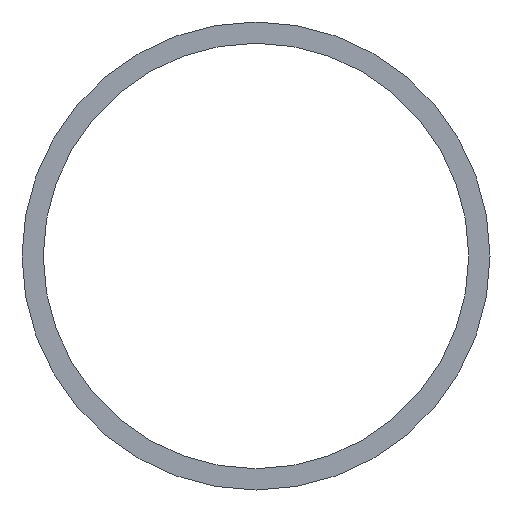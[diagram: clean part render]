
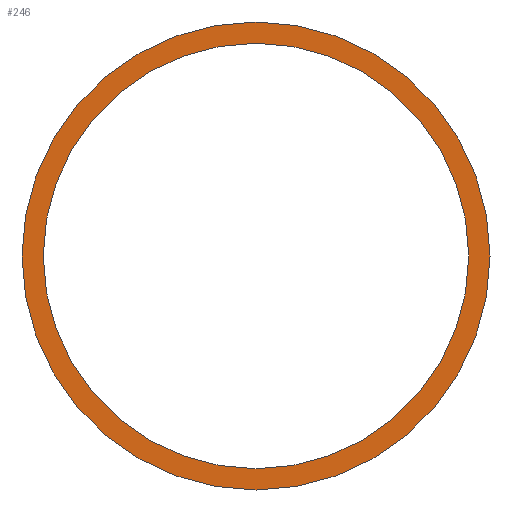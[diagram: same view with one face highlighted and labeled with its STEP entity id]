
A CAD part, front view. The second image highlights one B-rep face of the part: STEP entity #246.
In plain terms, the highlighted planar face has unit normal (0, -1, 0).
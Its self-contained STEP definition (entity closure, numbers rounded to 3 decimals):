
#17 = EDGE_LOOP ( 'NONE', ( #343, #183 ) ) ;
#29 = AXIS2_PLACEMENT_3D ( 'NONE', #523, #140, #232 ) ;
#48 = EDGE_CURVE ( 'NONE', #255, #549, #237, .T. ) ;
#135 = VERTEX_POINT ( 'NONE', #241 ) ;
#140 = DIRECTION ( 'NONE',  ( 0., -1., 0. ) ) ;
#175 = CIRCLE ( 'NONE', #29, 250. ) ;
#176 = DIRECTION ( 'NONE',  ( 0., 1., 0. ) ) ;
#183 = ORIENTED_EDGE ( 'NONE', *, *, #408, .F. ) ;
#188 = EDGE_CURVE ( 'NONE', #890, #135, #1183, .T. ) ;
#189 = FACE_BOUND ( 'NONE', #17, .T. ) ;
#199 = CIRCLE ( 'NONE', #333, 275. ) ;
#232 = DIRECTION ( 'NONE',  ( 0., 0., -1. ) ) ;
#237 = CIRCLE ( 'NONE', #347, 275. ) ;
#241 = CARTESIAN_POINT ( 'NONE',  ( 0., 0., 250. ) ) ;
#246 = ADVANCED_FACE ( 'NONE', ( #189, #558 ), #918, .F. ) ;
#255 = VERTEX_POINT ( 'NONE', #360 ) ;
#271 = AXIS2_PLACEMENT_3D ( 'NONE', #379, #1116, #908 ) ;
#333 = AXIS2_PLACEMENT_3D ( 'NONE', #625, #997, #1077 ) ;
#343 = ORIENTED_EDGE ( 'NONE', *, *, #188, .F. ) ;
#347 = AXIS2_PLACEMENT_3D ( 'NONE', #682, #1056, #1172 ) ;
#360 = CARTESIAN_POINT ( 'NONE',  ( 0., 0., 275. ) ) ;
#374 = CARTESIAN_POINT ( 'NONE',  ( 0., 0., 275. ) ) ;
#379 = CARTESIAN_POINT ( 'NONE',  ( 0., 0., 0. ) ) ;
#399 = EDGE_LOOP ( 'NONE', ( #755, #927 ) ) ;
#408 = EDGE_CURVE ( 'NONE', #135, #890, #175, .T. ) ;
#523 = CARTESIAN_POINT ( 'NONE',  ( 0., 0., 0. ) ) ;
#549 = VERTEX_POINT ( 'NONE', #550 ) ;
#550 = CARTESIAN_POINT ( 'NONE',  ( 0., 0., -275. ) ) ;
#558 = FACE_OUTER_BOUND ( 'NONE', #399, .T. ) ;
#625 = CARTESIAN_POINT ( 'NONE',  ( 0., 0., 0. ) ) ;
#654 = CARTESIAN_POINT ( 'NONE',  ( 0., 0., -250. ) ) ;
#682 = CARTESIAN_POINT ( 'NONE',  ( 0., 0., 0. ) ) ;
#755 = ORIENTED_EDGE ( 'NONE', *, *, #1121, .T. ) ;
#890 = VERTEX_POINT ( 'NONE', #654 ) ;
#908 = DIRECTION ( 'NONE',  ( 0., 0., -1. ) ) ;
#918 = PLANE ( 'NONE',  #1101 ) ;
#927 = ORIENTED_EDGE ( 'NONE', *, *, #48, .T. ) ;
#997 = DIRECTION ( 'NONE',  ( 0., -1., 0. ) ) ;
#1056 = DIRECTION ( 'NONE',  ( 0., -1., 0. ) ) ;
#1077 = DIRECTION ( 'NONE',  ( 0., 0., -1. ) ) ;
#1101 = AXIS2_PLACEMENT_3D ( 'NONE', #374, #176, #1191 ) ;
#1116 = DIRECTION ( 'NONE',  ( 0., -1., 0. ) ) ;
#1121 = EDGE_CURVE ( 'NONE', #549, #255, #199, .T. ) ;
#1172 = DIRECTION ( 'NONE',  ( 0., 0., -1. ) ) ;
#1183 = CIRCLE ( 'NONE', #271, 250. ) ;
#1191 = DIRECTION ( 'NONE',  ( 0., 0., 1. ) ) ;
